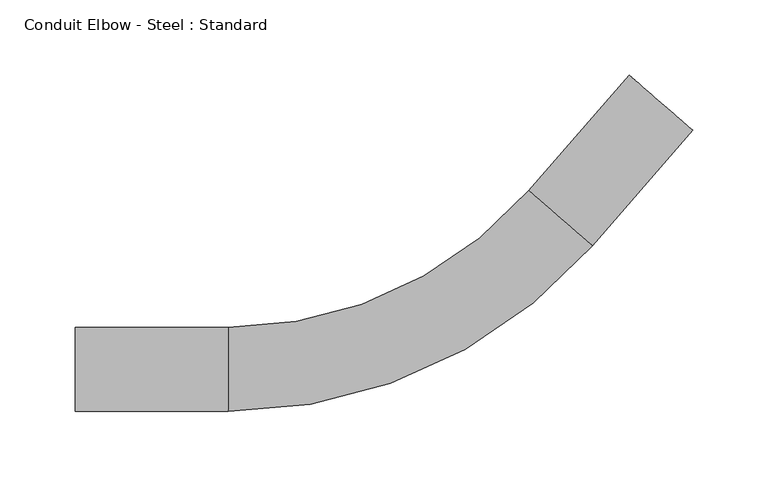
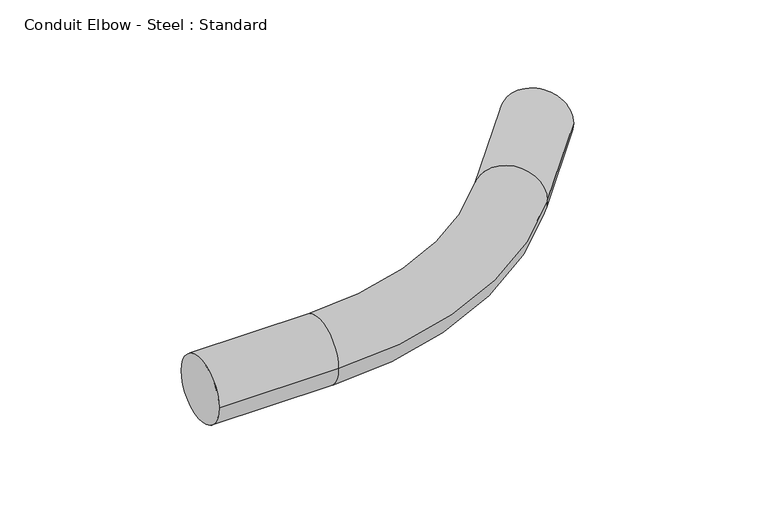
"""IFC4 building model written with IfcOpenShell, lengths in millimetres: cable carrier fitting geometry, Conduit Elbow - Steel : Standard."""

from ifc_helpers import new_model, si_unit, point, frame, origin, place, context, project, spatial, circle_curve, ellipse_curve, trimmed, source, transform, mapped, element, save
from ifc_brep_helpers import plane_surface, cylinder_surface, revolved_surface, advanced_brep


def conduit_elbow_steel_standard_2320be44(model_context):
    return source(origin(), model_context, "Body", "AdvancedBrep", [
        advanced_brep(
        [(-234.7176392, -27.9019, 0.0), (-234.7176392, 27.9019, 0.0), (-133.1176392, -27.9019, 0.0), (-133.1176392, 27.9019, 0.0), (66.2751979, 118.7704511, 0.0), (108.3908604, 82.1598642, 0.0), (175.0464577, 158.8383576, 0.0), (132.9307953, 195.4489444, 0.0)],
        [
            (0, 1, circle_curve(frame((-234.7176392, 0.0, 0.0), z_axis=(-1.0, 0.0, 0.0), x_axis=(0.0, 1.0, 0.0)), 27.9019)),
            (1, 0, circle_curve(frame((-234.7176392, 0.0, 0.0), z_axis=(-1.0, 0.0, 0.0), x_axis=(0.0, 1.0, 0.0)), 27.9019)),
            (0, 2),
            (2, 3, circle_curve(frame((-133.1176392, 0.0, 0.0), z_axis=(-1.0, 0.0, 0.0), x_axis=(0.0, 1.0, 0.0)), 27.9019)),
            (3, 1),
            (3, 2, circle_curve(frame((-133.1176392, 0.0, 0.0), z_axis=(-1.0, 0.0, 0.0), x_axis=(0.0, 1.0, 0.0)), 27.9019)),
            (4, 3, circle_curve(frame((-133.1176392, 292.1, 0.0), z_axis=(0.0, 0.0, -1.0), x_axis=(0.0, -1.0, 0.0)), 264.1981)),
            (2, 5, circle_curve(frame((-133.1176392, 292.1, 0.0), z_axis=(0.0, 0.0, 1.0), x_axis=(0.0, -1.0, 0.0)), 320.0019)),
            (5, 4, circle_curve(frame((87.3330291, 100.4651576, 0.0), z_axis=(-0.6560590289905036, -0.7547095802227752, 0.0), x_axis=(-0.7547095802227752, 0.6560590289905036, 0.0)), 27.9019)),
            (4, 5, circle_curve(frame((87.3330291, 100.4651576, 0.0), z_axis=(-0.6560590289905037, -0.754709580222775, 0.0), x_axis=(-0.754709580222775, 0.6560590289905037, 0.0)), 27.9019)),
            (6, 7, circle_curve(frame((153.9886265, 177.143651, 0.0), z_axis=(0.6560590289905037, 0.7547095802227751, 0.0), x_axis=(-0.7547095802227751, 0.6560590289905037, 0.0)), 27.9019)),
            (7, 6, circle_curve(frame((153.9886265, 177.143651, 0.0), z_axis=(0.6560590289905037, 0.7547095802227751, 0.0), x_axis=(-0.7547095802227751, 0.6560590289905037, 0.0)), 27.9019)),
            (5, 6),
            (7, 4),
        ],
        [
            plane_surface(frame((-234.7176392, 0.0, 0.0), z_axis=(-1.0, 0.0, 0.0), x_axis=(0.0, 0.0, 1.0))),
            cylinder_surface(frame((-234.7176392, 0.0, 0.0), z_axis=(-1.0, 0.0, 0.0), x_axis=(0.0, 1.0, 0.0)), 27.9019),
            revolved_surface(trimmed(ellipse_curve(frame((-133.1176392, 0.0, 0.0), z_axis=(-1.0, 0.0, 0.0), x_axis=(0.0, 1.0, 0.0)), 27.9019, 27.9019), [point((-133.1176392, -27.9019, 0.0))], [point((-133.1176392, 27.9019, 0.0))], True, "CARTESIAN"), (-133.1176392, 292.1, 0.0), (0.0, 0.0, 1.0)),
            revolved_surface(trimmed(ellipse_curve(frame((-133.1176392, 0.0, 0.0), z_axis=(-1.0, 0.0, 0.0), x_axis=(0.0, 1.0, 0.0)), 27.9019, 27.9019), [point((-133.1176392, 27.9019, 0.0))], [point((-133.1176392, -27.9019, 0.0))], True, "CARTESIAN"), (-133.1176392, 292.1, 0.0), (0.0, 0.0, 1.0)),
            plane_surface(frame((153.9886265, 177.143651, 0.0), z_axis=(0.6560590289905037, 0.7547095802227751, 0.0), x_axis=(0.0, 0.0, 1.0))),
            cylinder_surface(frame((87.3330291, 100.4651576, 0.0), z_axis=(-0.6560590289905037, -0.7547095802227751, 0.0), x_axis=(-0.7547095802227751, 0.6560590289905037, 0.0)), 27.9019),
        ],
        [
            (0, [[1, 2]]),
            (1, [[-1, 3, 4, 5]]),
            (1, [[-2, -5, 6, -3]]),
            (2, [[7, -4, 8, 9]]),
            (3, [[-8, -6, -7, 10]]),
            (4, [[11, 12]]),
            (5, [[-9, 13, -12, 14]]),
            (5, [[-10, -14, -11, -13]]),
        ],
    ),
    ])


if __name__ == "__main__":
    model = new_model("IFC4")
    model_context = context("Model", 3, world=origin())
    ifc_project = project(units=[si_unit("LENGTHUNIT", "METRE", prefix="MILLI")], contexts=[model_context])
    site = spatial("IfcSite", under=ifc_project)
    building = spatial("IfcBuilding", under=site)
    placement = place(None, origin())
    conduit_elbow_steel_standard_shape = conduit_elbow_steel_standard_2320be44(model_context)
    element("IfcCableCarrierFitting", 1, ObjectType="Conduit Elbow - Steel : Standard", at=placement, inside=building, context=model_context, shape_type="MappedRepresentation", body=[
        mapped(conduit_elbow_steel_standard_shape, transform((0.0, 0.0, 0.0), x_axis=(1.0, 0.0, 0.0), y_axis=(0.0, 1.0, 0.0), z_axis=(0.0, 0.0, 1.0))),
    ])
    save(model, "model.ifc")
